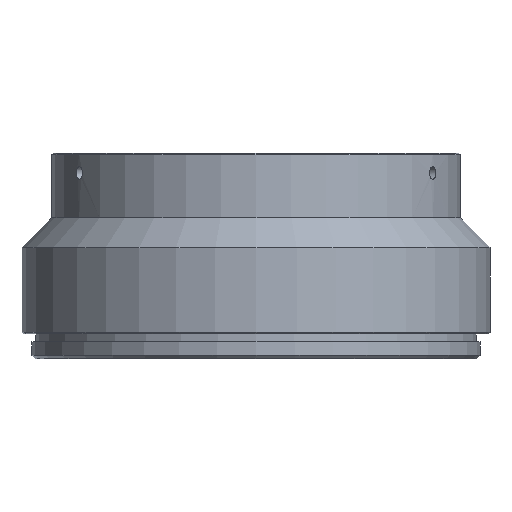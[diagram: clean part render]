
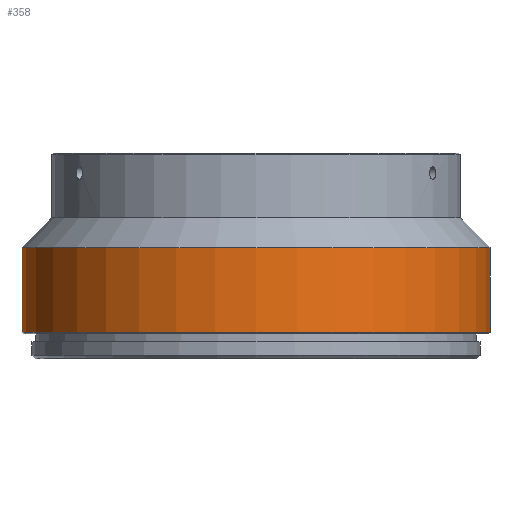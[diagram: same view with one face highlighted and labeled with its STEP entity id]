
A CAD part, front view. The second image highlights one B-rep face of the part: STEP entity #358.
In plain terms, the highlighted cylindrical face has radius 47 mm (diameter 94 mm), a partial arc.
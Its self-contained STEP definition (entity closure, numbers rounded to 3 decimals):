
#16 = CARTESIAN_POINT ( 'NONE',  ( -47., 0., 29.3 ) ) ;
#34 = CARTESIAN_POINT ( 'NONE',  ( 0., 0., 46.757 ) ) ;
#39 = AXIS2_PLACEMENT_3D ( 'NONE', #255, #75, #427 ) ;
#41 = ORIENTED_EDGE ( 'NONE', *, *, #98, .T. ) ;
#54 = DIRECTION ( 'NONE',  ( 1., 0., 0. ) ) ;
#75 = DIRECTION ( 'NONE',  ( 0., 0., 1. ) ) ;
#86 = LINE ( 'NONE', #708, #516 ) ;
#98 = EDGE_CURVE ( 'NONE', #760, #520, #689, .T. ) ;
#131 = DIRECTION ( 'NONE',  ( 0., 0., 1. ) ) ;
#190 = VERTEX_POINT ( 'NONE', #16 ) ;
#218 = EDGE_CURVE ( 'NONE', #1116, #190, #86, .T. ) ;
#242 = CARTESIAN_POINT ( 'NONE',  ( 0., 0., 29.3 ) ) ;
#255 = CARTESIAN_POINT ( 'NONE',  ( 0., 0., 12.3 ) ) ;
#307 = CYLINDRICAL_SURFACE ( 'NONE', #355, 47. ) ;
#355 = AXIS2_PLACEMENT_3D ( 'NONE', #34, #849, #54 ) ;
#358 = ADVANCED_FACE ( 'NONE', ( #861 ), #307, .T. ) ;
#427 = DIRECTION ( 'NONE',  ( 1., 0., 0. ) ) ;
#428 = CIRCLE ( 'NONE', #39, 47. ) ;
#498 = EDGE_CURVE ( 'NONE', #190, #520, #1055, .T. ) ;
#516 = VECTOR ( 'NONE', #789, 1000. ) ;
#520 = VERTEX_POINT ( 'NONE', #684 ) ;
#552 = ORIENTED_EDGE ( 'NONE', *, *, #498, .F. ) ;
#571 = CARTESIAN_POINT ( 'NONE',  ( 47., 0., 46.757 ) ) ;
#587 = DIRECTION ( 'NONE',  ( 0., 0., 1. ) ) ;
#623 = AXIS2_PLACEMENT_3D ( 'NONE', #242, #587, #964 ) ;
#684 = CARTESIAN_POINT ( 'NONE',  ( 47., 0., 29.3 ) ) ;
#689 = LINE ( 'NONE', #571, #864 ) ;
#694 = ORIENTED_EDGE ( 'NONE', *, *, #735, .T. ) ;
#708 = CARTESIAN_POINT ( 'NONE',  ( -47., 0., 46.757 ) ) ;
#735 = EDGE_CURVE ( 'NONE', #1116, #760, #428, .T. ) ;
#760 = VERTEX_POINT ( 'NONE', #764 ) ;
#764 = CARTESIAN_POINT ( 'NONE',  ( 47., 0., 12.3 ) ) ;
#789 = DIRECTION ( 'NONE',  ( 0., 0., 1. ) ) ;
#849 = DIRECTION ( 'NONE',  ( 0., 0., 1. ) ) ;
#861 = FACE_OUTER_BOUND ( 'NONE', #1024, .T. ) ;
#864 = VECTOR ( 'NONE', #131, 1000. ) ;
#951 = ORIENTED_EDGE ( 'NONE', *, *, #218, .F. ) ;
#964 = DIRECTION ( 'NONE',  ( 1., 0., 0. ) ) ;
#1024 = EDGE_LOOP ( 'NONE', ( #951, #694, #41, #552 ) ) ;
#1034 = CARTESIAN_POINT ( 'NONE',  ( -47., 0., 12.3 ) ) ;
#1055 = CIRCLE ( 'NONE', #623, 47. ) ;
#1116 = VERTEX_POINT ( 'NONE', #1034 ) ;
